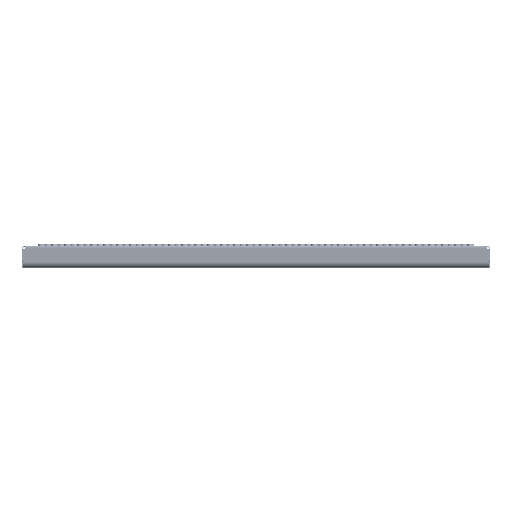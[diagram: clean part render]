
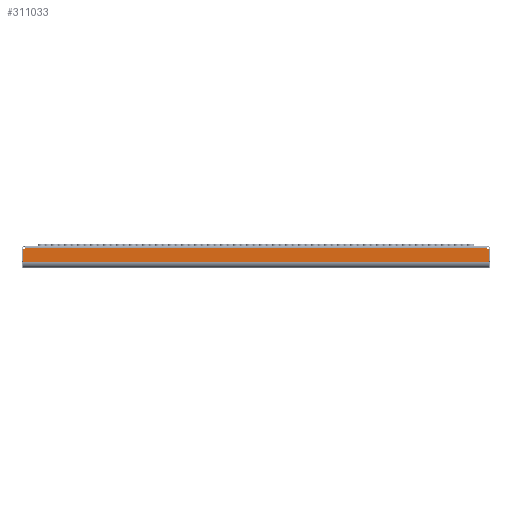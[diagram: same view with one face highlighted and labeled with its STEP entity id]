
A CAD part, top view. The second image highlights one B-rep face of the part: STEP entity #311033.
In plain terms, the highlighted planar face has unit normal (0, 0, 1).
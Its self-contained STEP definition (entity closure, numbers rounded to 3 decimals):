
#1078 = DIRECTION ( 'NONE',  ( 1., 0., 0. ) ) ;
#8457 = EDGE_LOOP ( 'NONE', ( #117761, #177653, #273995, #185415, #185464, #270204 ) ) ;
#8460 = EDGE_CURVE ( 'NONE', #69746, #225322, #259904, .T. ) ;
#10814 = VERTEX_POINT ( 'NONE', #267209 ) ;
#25228 = CARTESIAN_POINT ( 'NONE',  ( 447.99, -31.998, 100. ) ) ;
#31825 = FACE_OUTER_BOUND ( 'NONE', #8457, .T. ) ;
#47918 = EDGE_CURVE ( 'NONE', #266942, #10814, #65575, .T. ) ;
#55523 = CARTESIAN_POINT ( 'NONE',  ( -444.302, -4., 100. ) ) ;
#59512 = DIRECTION ( 'NONE',  ( 0., 0., 1. ) ) ;
#60491 = CARTESIAN_POINT ( 'NONE',  ( -449., -2.288, 100. ) ) ;
#62060 = CARTESIAN_POINT ( 'NONE',  ( -449., -4., 100. ) ) ;
#65575 = LINE ( 'NONE', #187689, #268245 ) ;
#66219 = EDGE_CURVE ( 'NONE', #138103, #165048, #132115, .T. ) ;
#69746 = VERTEX_POINT ( 'NONE', #25228 ) ;
#81466 = AXIS2_PLACEMENT_3D ( 'NONE', #132768, #59512, #284288 ) ;
#87748 = VECTOR ( 'NONE', #162058, 1000. ) ;
#90372 = VECTOR ( 'NONE', #1078, 1000. ) ;
#108327 = CIRCLE ( 'NONE', #144854, 5. ) ;
#112096 = DIRECTION ( 'NONE',  ( 0., -1., 0. ) ) ;
#117761 = ORIENTED_EDGE ( 'NONE', *, *, #170126, .T. ) ;
#123757 = CARTESIAN_POINT ( 'NONE',  ( 444.302, -4., 100. ) ) ;
#132115 = LINE ( 'NONE', #62060, #310907 ) ;
#132768 = CARTESIAN_POINT ( 'NONE',  ( -449., 195.712, 100. ) ) ;
#138103 = VERTEX_POINT ( 'NONE', #55523 ) ;
#138525 = DIRECTION ( 'NONE',  ( 1., 0., 0. ) ) ;
#144854 = AXIS2_PLACEMENT_3D ( 'NONE', #60491, #182584, #163026 ) ;
#149254 = CARTESIAN_POINT ( 'NONE',  ( -447.99, -31.998, 100. ) ) ;
#151004 = CIRCLE ( 'NONE', #161452, 5. ) ;
#153995 = PLANE ( 'NONE',  #81466 ) ;
#161452 = AXIS2_PLACEMENT_3D ( 'NONE', #166998, #170200, #112096 ) ;
#162058 = DIRECTION ( 'NONE',  ( 0., 1., 0. ) ) ;
#163026 = DIRECTION ( 'NONE',  ( 0., -1., 0. ) ) ;
#165048 = VERTEX_POINT ( 'NONE', #123757 ) ;
#166998 = CARTESIAN_POINT ( 'NONE',  ( 449., -2.288, 100. ) ) ;
#170126 = EDGE_CURVE ( 'NONE', #10814, #69746, #245510, .T. ) ;
#170200 = DIRECTION ( 'NONE',  ( 0., 0., -1. ) ) ;
#177653 = ORIENTED_EDGE ( 'NONE', *, *, #8460, .T. ) ;
#182584 = DIRECTION ( 'NONE',  ( 0., 0., -1. ) ) ;
#185415 = ORIENTED_EDGE ( 'NONE', *, *, #66219, .F. ) ;
#185464 = ORIENTED_EDGE ( 'NONE', *, *, #265450, .T. ) ;
#187689 = CARTESIAN_POINT ( 'NONE',  ( -447.99, -7.185, 100. ) ) ;
#215391 = DIRECTION ( 'NONE',  ( 0., -1., 0. ) ) ;
#225322 = VERTEX_POINT ( 'NONE', #271866 ) ;
#245510 = LINE ( 'NONE', #149254, #90372 ) ;
#247042 = EDGE_CURVE ( 'NONE', #225322, #165048, #151004, .T. ) ;
#259904 = LINE ( 'NONE', #266312, #87748 ) ;
#262888 = CARTESIAN_POINT ( 'NONE',  ( -447.99, -7.185, 100. ) ) ;
#265450 = EDGE_CURVE ( 'NONE', #138103, #266942, #108327, .T. ) ;
#266312 = CARTESIAN_POINT ( 'NONE',  ( 447.99, -7.185, 100. ) ) ;
#266942 = VERTEX_POINT ( 'NONE', #262888 ) ;
#267209 = CARTESIAN_POINT ( 'NONE',  ( -447.99, -31.998, 100. ) ) ;
#268245 = VECTOR ( 'NONE', #215391, 1000. ) ;
#270204 = ORIENTED_EDGE ( 'NONE', *, *, #47918, .T. ) ;
#271866 = CARTESIAN_POINT ( 'NONE',  ( 447.99, -7.185, 100. ) ) ;
#273995 = ORIENTED_EDGE ( 'NONE', *, *, #247042, .T. ) ;
#284288 = DIRECTION ( 'NONE',  ( 0., -1., 0. ) ) ;
#310907 = VECTOR ( 'NONE', #138525, 1000. ) ;
#311033 = ADVANCED_FACE ( 'NONE', ( #31825 ), #153995, .T. ) ;
